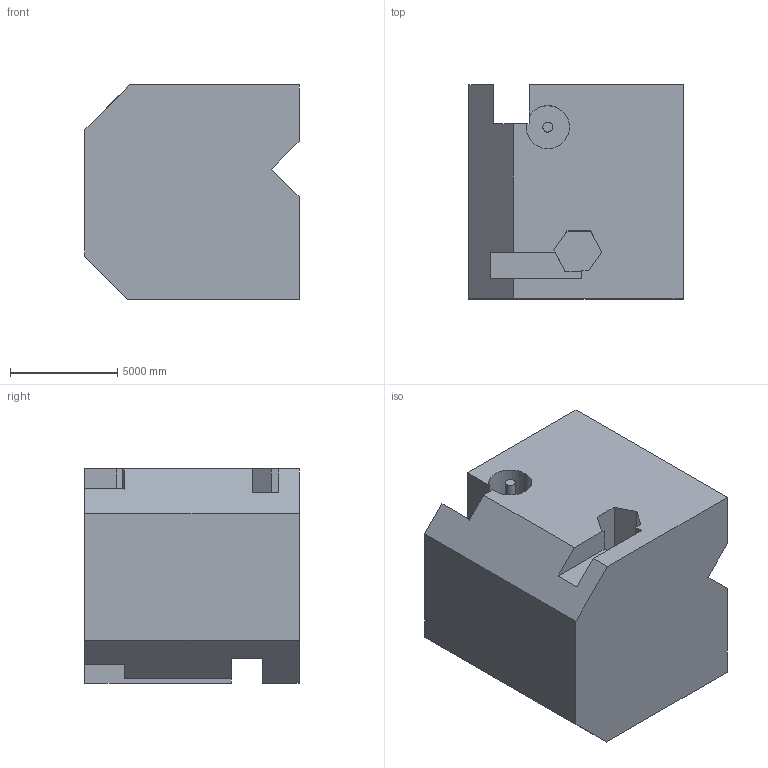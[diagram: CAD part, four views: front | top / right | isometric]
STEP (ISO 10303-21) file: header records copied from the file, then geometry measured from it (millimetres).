
FILE_DESCRIPTION (( 'STEP AP203' ), '1' );
FILE_NAME ('179.STEP', '2022-08-31T12:12:44', ( 'user' ), ( '' ), 'SwSTEP 2.0', 'SolidWorks 2021', '' );
FILE_SCHEMA (( 'CONFIG_CONTROL_DESIGN' ));
Length unit declared in the file: centimetre
Products named in the file (1): 179
Bounding box: 10000 x 10000 x 10000 mm (x, y, z)
Volume: 852739522308.5 mm3; surface area: 695630539.7 mm2
Topology: 1 solids, 1 shells, 42 faces, 117 edges, 78 vertices
Faces by surface type: plane 37, cylinder 5
Entity records: 1408 total; most frequent: CARTESIAN_POINT 238, ORIENTED_EDGE 234, DIRECTION 213, EDGE_CURVE 117, VECTOR 107, LINE 107, VERTEX_POINT 78, AXIS2_PLACEMENT_3D 53
